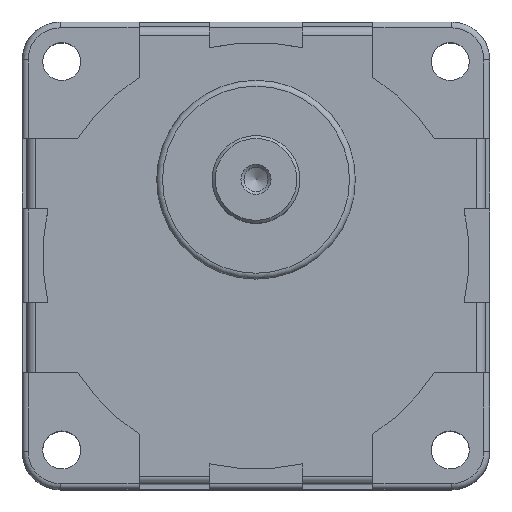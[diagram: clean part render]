
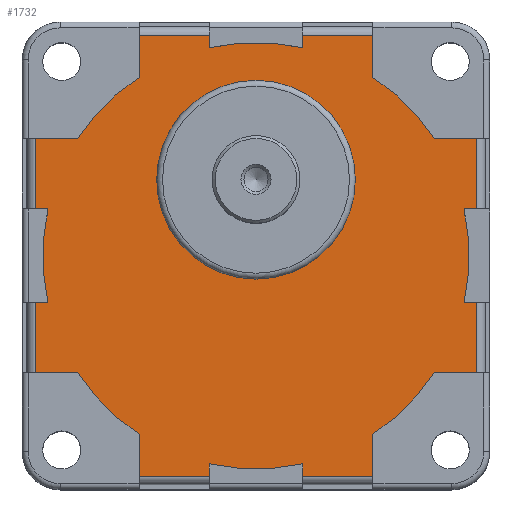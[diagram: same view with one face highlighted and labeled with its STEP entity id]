
A CAD part, top view. The second image highlights one B-rep face of the part: STEP entity #1732.
In plain terms, the highlighted planar face has unit normal (0, 0, 1).
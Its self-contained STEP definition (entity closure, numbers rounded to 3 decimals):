
#25=LINE('',#2626,#188);
#29=LINE('',#2638,#192);
#31=LINE('',#2644,#194);
#32=LINE('',#2648,#195);
#33=LINE('',#2650,#196);
#34=LINE('',#2652,#197);
#35=LINE('',#2656,#198);
#36=LINE('',#2658,#199);
#37=LINE('',#2660,#200);
#38=LINE('',#2664,#201);
#39=LINE('',#2666,#202);
#40=LINE('',#2668,#203);
#41=LINE('',#2672,#204);
#42=LINE('',#2674,#205);
#43=LINE('',#2676,#206);
#44=LINE('',#2680,#207);
#45=LINE('',#2682,#208);
#46=LINE('',#2684,#209);
#47=LINE('',#2688,#210);
#48=LINE('',#2690,#211);
#49=LINE('',#2692,#212);
#50=LINE('',#2695,#213);
#51=LINE('',#2697,#214);
#52=LINE('',#2700,#215);
#188=VECTOR('',#2095,12.);
#192=VECTOR('',#2105,12.);
#194=VECTOR('',#2111,7.167);
#195=VECTOR('',#2114,7.167);
#196=VECTOR('',#2115,12.);
#197=VECTOR('',#2116,2.088);
#198=VECTOR('',#2119,2.088);
#199=VECTOR('',#2120,12.);
#200=VECTOR('',#2121,7.167);
#201=VECTOR('',#2124,7.167);
#202=VECTOR('',#2125,12.);
#203=VECTOR('',#2126,2.088);
#204=VECTOR('',#2129,2.088);
#205=VECTOR('',#2130,12.);
#206=VECTOR('',#2131,7.167);
#207=VECTOR('',#2134,7.167);
#208=VECTOR('',#2135,12.);
#209=VECTOR('',#2136,2.088);
#210=VECTOR('',#2139,2.088);
#211=VECTOR('',#2140,12.);
#212=VECTOR('',#2141,7.167);
#213=VECTOR('',#2144,7.167);
#214=VECTOR('',#2145,2.088);
#215=VECTOR('',#2148,2.088);
#352=PLANE('',#1861);
#454=FACE_BOUND('',#601,.T.);
#482=FACE_OUTER_BOUND('',#600,.T.);
#600=EDGE_LOOP('',(#1257,#1258,#1259,#1260,#1261,#1262,#1263,#1264,#1265,
#1266,#1267,#1268,#1269,#1270,#1271,#1272,#1273,#1274,#1275,#1276,#1277,
#1278,#1279,#1280,#1281,#1282,#1283,#1284,#1285,#1286,#1287,#1288));
#601=EDGE_LOOP('',(#1289));
#712=CIRCLE('',#1852,17.);
#717=CIRCLE('',#1862,36.5);
#718=CIRCLE('',#1863,36.5);
#719=CIRCLE('',#1864,36.5);
#720=CIRCLE('',#1865,36.5);
#721=CIRCLE('',#1866,36.5);
#722=CIRCLE('',#1867,36.5);
#723=CIRCLE('',#1868,36.5);
#724=CIRCLE('',#1869,36.5);
#805=VERTEX_POINT('',#2615);
#806=VERTEX_POINT('',#2619);
#809=VERTEX_POINT('',#2624);
#813=VERTEX_POINT('',#2635);
#814=VERTEX_POINT('',#2637);
#816=VERTEX_POINT('',#2643);
#817=VERTEX_POINT('',#2645);
#818=VERTEX_POINT('',#2647);
#819=VERTEX_POINT('',#2649);
#820=VERTEX_POINT('',#2651);
#821=VERTEX_POINT('',#2653);
#822=VERTEX_POINT('',#2655);
#823=VERTEX_POINT('',#2657);
#824=VERTEX_POINT('',#2659);
#825=VERTEX_POINT('',#2661);
#826=VERTEX_POINT('',#2663);
#827=VERTEX_POINT('',#2665);
#828=VERTEX_POINT('',#2667);
#829=VERTEX_POINT('',#2669);
#830=VERTEX_POINT('',#2671);
#831=VERTEX_POINT('',#2673);
#832=VERTEX_POINT('',#2675);
#833=VERTEX_POINT('',#2677);
#834=VERTEX_POINT('',#2679);
#835=VERTEX_POINT('',#2681);
#836=VERTEX_POINT('',#2683);
#837=VERTEX_POINT('',#2685);
#838=VERTEX_POINT('',#2687);
#839=VERTEX_POINT('',#2689);
#840=VERTEX_POINT('',#2691);
#841=VERTEX_POINT('',#2693);
#842=VERTEX_POINT('',#2696);
#843=VERTEX_POINT('',#2698);
#978=EDGE_CURVE('',#805,#805,#712,.T.);
#982=EDGE_CURVE('',#809,#806,#25,.T.);
#987=EDGE_CURVE('',#813,#814,#29,.T.);
#990=EDGE_CURVE('',#809,#816,#31,.T.);
#991=EDGE_CURVE('',#817,#816,#717,.T.);
#992=EDGE_CURVE('',#818,#817,#32,.T.);
#993=EDGE_CURVE('',#819,#818,#33,.T.);
#994=EDGE_CURVE('',#820,#819,#34,.T.);
#995=EDGE_CURVE('',#821,#820,#718,.T.);
#996=EDGE_CURVE('',#821,#822,#35,.T.);
#997=EDGE_CURVE('',#823,#822,#36,.T.);
#998=EDGE_CURVE('',#823,#824,#37,.T.);
#999=EDGE_CURVE('',#825,#824,#719,.T.);
#1000=EDGE_CURVE('',#826,#825,#38,.T.);
#1001=EDGE_CURVE('',#827,#826,#39,.T.);
#1002=EDGE_CURVE('',#828,#827,#40,.T.);
#1003=EDGE_CURVE('',#829,#828,#720,.T.);
#1004=EDGE_CURVE('',#829,#830,#41,.T.);
#1005=EDGE_CURVE('',#831,#830,#42,.T.);
#1006=EDGE_CURVE('',#831,#832,#43,.T.);
#1007=EDGE_CURVE('',#833,#832,#721,.T.);
#1008=EDGE_CURVE('',#834,#833,#44,.T.);
#1009=EDGE_CURVE('',#835,#834,#45,.T.);
#1010=EDGE_CURVE('',#836,#835,#46,.T.);
#1011=EDGE_CURVE('',#837,#836,#722,.T.);
#1012=EDGE_CURVE('',#837,#838,#47,.T.);
#1013=EDGE_CURVE('',#839,#838,#48,.T.);
#1014=EDGE_CURVE('',#839,#840,#49,.T.);
#1015=EDGE_CURVE('',#841,#840,#723,.T.);
#1016=EDGE_CURVE('',#814,#841,#50,.T.);
#1017=EDGE_CURVE('',#842,#813,#51,.T.);
#1018=EDGE_CURVE('',#843,#842,#724,.T.);
#1019=EDGE_CURVE('',#843,#806,#52,.T.);
#1257=ORIENTED_EDGE('',*,*,#982,.F.);
#1258=ORIENTED_EDGE('',*,*,#990,.T.);
#1259=ORIENTED_EDGE('',*,*,#991,.F.);
#1260=ORIENTED_EDGE('',*,*,#992,.F.);
#1261=ORIENTED_EDGE('',*,*,#993,.F.);
#1262=ORIENTED_EDGE('',*,*,#994,.F.);
#1263=ORIENTED_EDGE('',*,*,#995,.F.);
#1264=ORIENTED_EDGE('',*,*,#996,.T.);
#1265=ORIENTED_EDGE('',*,*,#997,.F.);
#1266=ORIENTED_EDGE('',*,*,#998,.T.);
#1267=ORIENTED_EDGE('',*,*,#999,.F.);
#1268=ORIENTED_EDGE('',*,*,#1000,.F.);
#1269=ORIENTED_EDGE('',*,*,#1001,.F.);
#1270=ORIENTED_EDGE('',*,*,#1002,.F.);
#1271=ORIENTED_EDGE('',*,*,#1003,.F.);
#1272=ORIENTED_EDGE('',*,*,#1004,.T.);
#1273=ORIENTED_EDGE('',*,*,#1005,.F.);
#1274=ORIENTED_EDGE('',*,*,#1006,.T.);
#1275=ORIENTED_EDGE('',*,*,#1007,.F.);
#1276=ORIENTED_EDGE('',*,*,#1008,.F.);
#1277=ORIENTED_EDGE('',*,*,#1009,.F.);
#1278=ORIENTED_EDGE('',*,*,#1010,.F.);
#1279=ORIENTED_EDGE('',*,*,#1011,.F.);
#1280=ORIENTED_EDGE('',*,*,#1012,.T.);
#1281=ORIENTED_EDGE('',*,*,#1013,.F.);
#1282=ORIENTED_EDGE('',*,*,#1014,.T.);
#1283=ORIENTED_EDGE('',*,*,#1015,.F.);
#1284=ORIENTED_EDGE('',*,*,#1016,.F.);
#1285=ORIENTED_EDGE('',*,*,#987,.F.);
#1286=ORIENTED_EDGE('',*,*,#1017,.F.);
#1287=ORIENTED_EDGE('',*,*,#1018,.F.);
#1288=ORIENTED_EDGE('',*,*,#1019,.T.);
#1289=ORIENTED_EDGE('',*,*,#978,.F.);
#1732=ADVANCED_FACE('',(#482,#454),#352,.T.);
#1852=AXIS2_PLACEMENT_3D('',#2616,#2084,#2085);
#1861=AXIS2_PLACEMENT_3D('',#2642,#2109,#2110);
#1862=AXIS2_PLACEMENT_3D('',#2646,#2112,#2113);
#1863=AXIS2_PLACEMENT_3D('',#2654,#2117,#2118);
#1864=AXIS2_PLACEMENT_3D('',#2662,#2122,#2123);
#1865=AXIS2_PLACEMENT_3D('',#2670,#2127,#2128);
#1866=AXIS2_PLACEMENT_3D('',#2678,#2132,#2133);
#1867=AXIS2_PLACEMENT_3D('',#2686,#2137,#2138);
#1868=AXIS2_PLACEMENT_3D('',#2694,#2142,#2143);
#1869=AXIS2_PLACEMENT_3D('',#2699,#2146,#2147);
#2084=DIRECTION('center_axis',(0.,0.,1.));
#2085=DIRECTION('ref_axis',(-1.,0.,0.));
#2095=DIRECTION('',(0.,-1.,0.));
#2105=DIRECTION('',(0.,-1.,0.));
#2109=DIRECTION('center_axis',(0.,0.,1.));
#2110=DIRECTION('ref_axis',(1.,0.,0.));
#2111=DIRECTION('',(-1.,0.,0.));
#2112=DIRECTION('center_axis',(0.,0.,-1.));
#2113=DIRECTION('ref_axis',(-1.,0.,0.));
#2114=DIRECTION('',(0.,-1.,0.));
#2115=DIRECTION('',(1.,0.,0.));
#2116=DIRECTION('',(0.,1.,0.));
#2117=DIRECTION('center_axis',(0.,0.,-1.));
#2118=DIRECTION('ref_axis',(-1.,0.,0.));
#2119=DIRECTION('',(0.,1.,0.));
#2120=DIRECTION('',(1.,0.,0.));
#2121=DIRECTION('',(0.,-1.,0.));
#2122=DIRECTION('center_axis',(0.,0.,-1.));
#2123=DIRECTION('ref_axis',(-1.,0.,0.));
#2124=DIRECTION('',(1.,0.,0.));
#2125=DIRECTION('',(0.,1.,0.));
#2126=DIRECTION('',(-1.,0.,0.));
#2127=DIRECTION('center_axis',(0.,0.,-1.));
#2128=DIRECTION('ref_axis',(-1.,0.,0.));
#2129=DIRECTION('',(-1.,0.,0.));
#2130=DIRECTION('',(0.,1.,0.));
#2131=DIRECTION('',(1.,0.,0.));
#2132=DIRECTION('center_axis',(0.,0.,-1.));
#2133=DIRECTION('ref_axis',(-1.,0.,0.));
#2134=DIRECTION('',(0.,1.,0.));
#2135=DIRECTION('',(-1.,0.,0.));
#2136=DIRECTION('',(0.,-1.,0.));
#2137=DIRECTION('center_axis',(0.,0.,-1.));
#2138=DIRECTION('ref_axis',(-1.,0.,0.));
#2139=DIRECTION('',(0.,-1.,0.));
#2140=DIRECTION('',(-1.,0.,0.));
#2141=DIRECTION('',(0.,1.,0.));
#2142=DIRECTION('center_axis',(0.,0.,-1.));
#2143=DIRECTION('ref_axis',(-1.,0.,0.));
#2144=DIRECTION('',(-1.,0.,0.));
#2145=DIRECTION('',(1.,0.,0.));
#2146=DIRECTION('center_axis',(0.,0.,-1.));
#2147=DIRECTION('ref_axis',(-1.,0.,0.));
#2148=DIRECTION('',(1.,0.,0.));
#2615=CARTESIAN_POINT('',(17.,13.,50.2));
#2616=CARTESIAN_POINT('Origin',(0.,13.,50.2));
#2619=CARTESIAN_POINT('',(37.7,8.,50.2));
#2624=CARTESIAN_POINT('',(37.7,20.,50.2));
#2626=CARTESIAN_POINT('',(37.7,10.,50.2));
#2635=CARTESIAN_POINT('',(37.7,-8.,50.2));
#2637=CARTESIAN_POINT('',(37.7,-20.,50.2));
#2638=CARTESIAN_POINT('',(37.7,-10.,50.2));
#2642=CARTESIAN_POINT('Origin',(0.,0.,50.2));
#2643=CARTESIAN_POINT('',(30.533,20.,50.2));
#2644=CARTESIAN_POINT('',(30.533,20.,50.2));
#2645=CARTESIAN_POINT('',(20.,30.533,50.2));
#2646=CARTESIAN_POINT('Origin',(0.,0.,50.2));
#2647=CARTESIAN_POINT('',(20.,37.7,50.2));
#2648=CARTESIAN_POINT('',(20.,30.533,50.2));
#2649=CARTESIAN_POINT('',(8.,37.7,50.2));
#2650=CARTESIAN_POINT('',(10.,37.7,50.2));
#2651=CARTESIAN_POINT('',(8.,35.612,50.2));
#2652=CARTESIAN_POINT('',(8.,40.,50.2));
#2653=CARTESIAN_POINT('',(-8.,35.612,50.2));
#2654=CARTESIAN_POINT('Origin',(0.,0.,50.2));
#2655=CARTESIAN_POINT('',(-8.,37.7,50.2));
#2656=CARTESIAN_POINT('',(-8.,40.,50.2));
#2657=CARTESIAN_POINT('',(-20.,37.7,50.2));
#2658=CARTESIAN_POINT('',(-10.,37.7,50.2));
#2659=CARTESIAN_POINT('',(-20.,30.533,50.2));
#2660=CARTESIAN_POINT('',(-20.,30.533,50.2));
#2661=CARTESIAN_POINT('',(-30.533,20.,50.2));
#2662=CARTESIAN_POINT('Origin',(0.,0.,50.2));
#2663=CARTESIAN_POINT('',(-37.7,20.,50.2));
#2664=CARTESIAN_POINT('',(-30.533,20.,50.2));
#2665=CARTESIAN_POINT('',(-37.7,8.,50.2));
#2666=CARTESIAN_POINT('',(-37.7,10.,50.2));
#2667=CARTESIAN_POINT('',(-35.612,8.,50.2));
#2668=CARTESIAN_POINT('',(-40.,8.,50.2));
#2669=CARTESIAN_POINT('',(-35.612,-8.,50.2));
#2670=CARTESIAN_POINT('Origin',(0.,0.,50.2));
#2671=CARTESIAN_POINT('',(-37.7,-8.,50.2));
#2672=CARTESIAN_POINT('',(-40.,-8.,50.2));
#2673=CARTESIAN_POINT('',(-37.7,-20.,50.2));
#2674=CARTESIAN_POINT('',(-37.7,-10.,50.2));
#2675=CARTESIAN_POINT('',(-30.533,-20.,50.2));
#2676=CARTESIAN_POINT('',(-30.533,-20.,50.2));
#2677=CARTESIAN_POINT('',(-20.,-30.533,50.2));
#2678=CARTESIAN_POINT('Origin',(0.,0.,50.2));
#2679=CARTESIAN_POINT('',(-20.,-37.7,50.2));
#2680=CARTESIAN_POINT('',(-20.,-30.533,50.2));
#2681=CARTESIAN_POINT('',(-8.,-37.7,50.2));
#2682=CARTESIAN_POINT('',(-10.,-37.7,50.2));
#2683=CARTESIAN_POINT('',(-8.,-35.612,50.2));
#2684=CARTESIAN_POINT('',(-8.,-40.,50.2));
#2685=CARTESIAN_POINT('',(8.,-35.612,50.2));
#2686=CARTESIAN_POINT('Origin',(0.,0.,50.2));
#2687=CARTESIAN_POINT('',(8.,-37.7,50.2));
#2688=CARTESIAN_POINT('',(8.,-40.,50.2));
#2689=CARTESIAN_POINT('',(20.,-37.7,50.2));
#2690=CARTESIAN_POINT('',(10.,-37.7,50.2));
#2691=CARTESIAN_POINT('',(20.,-30.533,50.2));
#2692=CARTESIAN_POINT('',(20.,-30.533,50.2));
#2693=CARTESIAN_POINT('',(30.533,-20.,50.2));
#2694=CARTESIAN_POINT('Origin',(0.,0.,50.2));
#2695=CARTESIAN_POINT('',(30.533,-20.,50.2));
#2696=CARTESIAN_POINT('',(35.612,-8.,50.2));
#2697=CARTESIAN_POINT('',(40.,-8.,50.2));
#2698=CARTESIAN_POINT('',(35.612,8.,50.2));
#2699=CARTESIAN_POINT('Origin',(0.,0.,50.2));
#2700=CARTESIAN_POINT('',(40.,8.,50.2));
